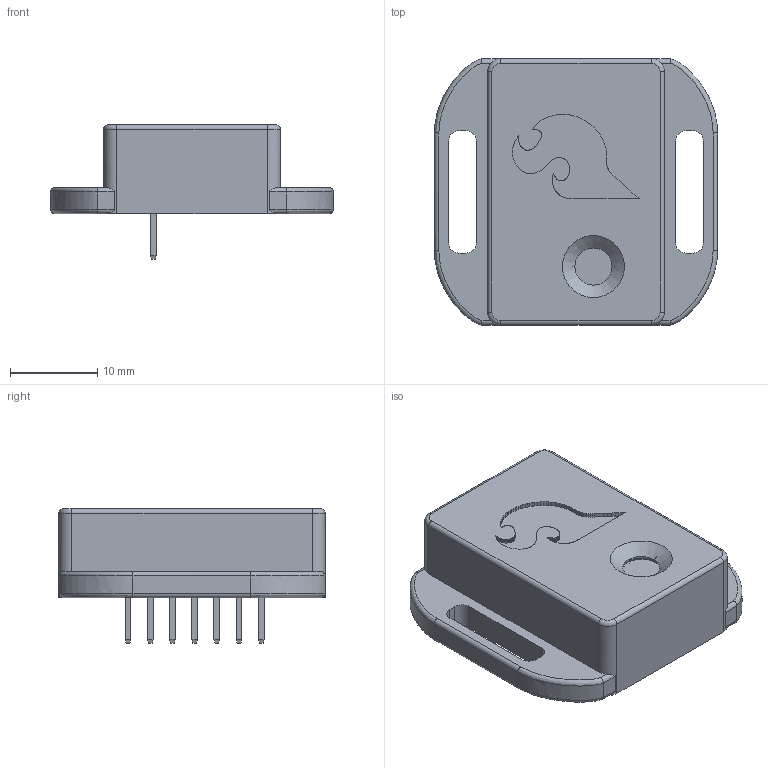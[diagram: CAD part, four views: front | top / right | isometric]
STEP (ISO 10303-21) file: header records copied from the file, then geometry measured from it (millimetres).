
FILE_DESCRIPTION(('FreeCAD Model'),'2;1');
FILE_NAME('Open CASCADE Shape Model','2025-03-20T11:46:21',(''),(''), 'Open CASCADE STEP processor 7.6','FreeCAD','Unknown');
FILE_SCHEMA(('AUTOMOTIVE_DESIGN { 1 0 10303 214 1 1 1 1 }'));
Length unit declared in the file: millimetre
Products named in the file (7): HMV080_Enclosure_Assembly; 9262K611_Oil-Resistant Buna-N O-Ring1_001; SparkFun_BMV080_v11_001; HMV080_Optical_Cover_5x5x0.7mm_001; PTH_Male_Header_Pin_01x07_001; HMV080_Enclosure_Outer_Shell_001; HMV080_Enclosure_Inner_Shell_001
Assembly tree (6 placements, depth 2):
  HMV080_Enclosure_Assembly
    9262K611_Oil-Resistant Buna-N O-Ring1_001
    SparkFun_BMV080_v11_001
    HMV080_Optical_Cover_5x5x0.7mm_001
    PTH_Male_Header_Pin_01x07_001
    HMV080_Enclosure_Outer_Shell_001
    HMV080_Enclosure_Inner_Shell_001
Bounding box: 32.4 x 30.51 x 15.37 mm (x, y, z)
Volume: 5033.1 mm3; surface area: 7581.4 mm2
Topology: 38 solids, 59 shells, 3813 faces, 10314 edges, 6698 vertices
Faces by surface type: plane 2677, cylinder 598, extrusion 403, sphere 48, bspline 34, torus 33, revolution 16, cone 4
Full cylindrical faces by diameter (mm): 0.1 x20, 0.101 x1, 0.102 x1, 0.802 x2, 0.803 x1, 1.016 x7, 1.832 x1, 2.16 x1, 2.26 x1, 4.258 x1
Entity records: 151124 total; most frequent: CARTESIAN_POINT 34081, ORIENTED_EDGE 20596, DIRECTION 17764, EDGE_CURVE 10298, VECTOR 8500, LINE 8097, VERTEX_POINT 6698, AXIS2_PLACEMENT_3D 4624
